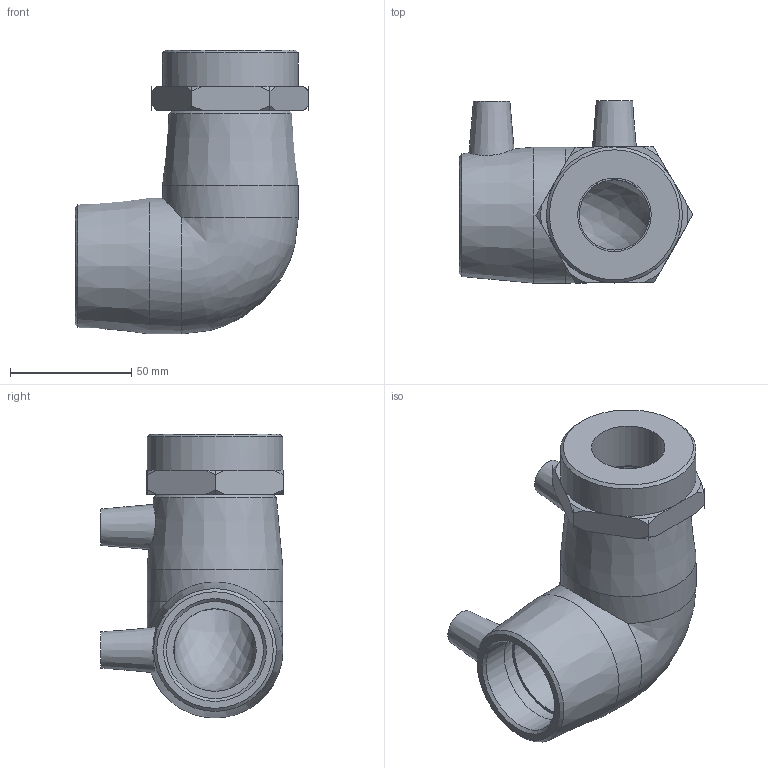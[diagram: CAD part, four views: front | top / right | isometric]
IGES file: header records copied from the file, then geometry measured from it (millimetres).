
Global section: file name: 493504040010.ipt; native system: Autodesk Inventor 2015; preprocessor: unknown; author: KIM; date: 20200202.123456; units: millimetre
Bounding box: 96.33 x 75.08 x 117 mm (x, y, z)
Volume: 220468.2 mm3; surface area: 50460.7 mm2
Topology: 2 solids, 2 shells, 76 faces, 215 edges, 150 vertices
Faces by surface type: plane 27, revolution 22, cone 19, cylinder 7, bspline 1
Full cylindrical faces by diameter (mm): 4 x2, 40 x2, 56 x3
